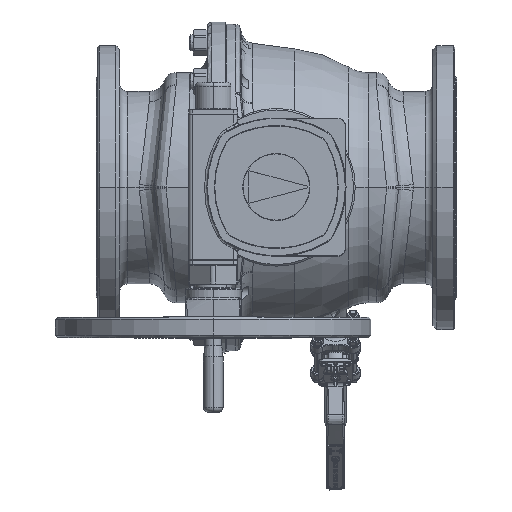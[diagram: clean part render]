
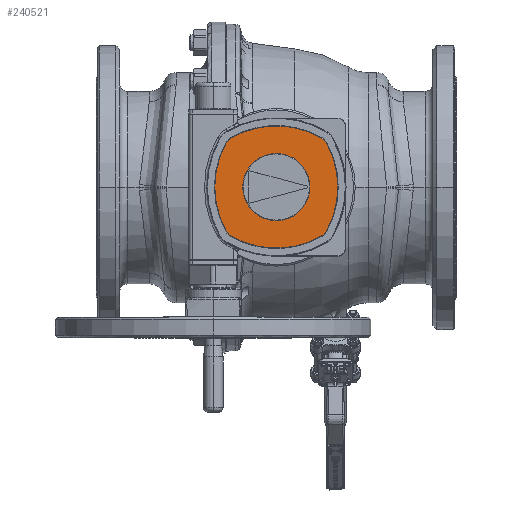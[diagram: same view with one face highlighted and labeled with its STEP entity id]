
A CAD part, top view. The second image highlights one B-rep face of the part: STEP entity #240521.
In plain terms, the highlighted planar face has unit normal (0, 0, 1).
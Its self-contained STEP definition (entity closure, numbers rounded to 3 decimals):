
#222836=CARTESIAN_POINT('',(0.,-37.5,190.));
#222837=DIRECTION('',(0.,0.,-1.));
#222838=DIRECTION('',(-0.502,0.865,0.));
#222839=AXIS2_PLACEMENT_3D('',#222836,#222837,#222838);
#222850=CARTESIAN_POINT('',(50.17,49.004,190.));
#222851=DIRECTION('',(0.,0.,1.));
#222852=DIRECTION('',(0.872,0.49,0.));
#222853=AXIS2_PLACEMENT_3D('',#222850,#222851,#222852);
#222864=CARTESIAN_POINT('',(-37.,0.,190.));
#222865=DIRECTION('',(0.,0.,-1.));
#222866=DIRECTION('',(0.872,0.49,0.));
#222867=AXIS2_PLACEMENT_3D('',#222864,#222865,#222866);
#222878=CARTESIAN_POINT('',(50.17,-49.004,190.));
#222879=DIRECTION('',(0.,0.,1.));
#222880=DIRECTION('',(0.502,-0.865,0.));
#222881=AXIS2_PLACEMENT_3D('',#222878,#222879,#222880);
#222892=CARTESIAN_POINT('',(0.,37.5,190.));
#222893=DIRECTION('',(0.,0.,-1.));
#222894=DIRECTION('',(0.502,-0.865,0.));
#222895=AXIS2_PLACEMENT_3D('',#222892,#222893,#222894);
#222906=CARTESIAN_POINT('',(-50.17,-49.004,190.));
#222907=DIRECTION('',(0.,0.,1.));
#222908=DIRECTION('',(-0.872,-0.49,0.));
#222909=AXIS2_PLACEMENT_3D('',#222906,#222907,#222908);
#222920=CARTESIAN_POINT('',(37.,0.,190.));
#222921=DIRECTION('',(0.,0.,-1.));
#222922=DIRECTION('',(-0.872,-0.49,0.));
#222923=AXIS2_PLACEMENT_3D('',#222920,#222921,#222922);
#222934=CARTESIAN_POINT('',(-50.17,49.004,190.));
#222935=DIRECTION('',(0.,0.,1.));
#222936=DIRECTION('',(-0.502,0.865,0.));
#222937=AXIS2_PLACEMENT_3D('',#222934,#222935,#222936);
#222939=CARTESIAN_POINT('',(0.,0.,190.));
#222940=DIRECTION('',(0.,0.,1.));
#222941=DIRECTION('',(-1.,0.,0.));
#222942=AXIS2_PLACEMENT_3D('',#222939,#222940,#222941);
#222944=CARTESIAN_POINT('',(0.,0.,190.));
#222945=DIRECTION('',(0.,0.,1.));
#222946=DIRECTION('',(1.,0.,0.));
#222947=AXIS2_PLACEMENT_3D('',#222944,#222945,#222946);
#227826=CARTESIAN_POINT('',(-42.5,0.,190.));
#227827=CARTESIAN_POINT('',(42.5,0.,190.));
#227828=VERTEX_POINT('',#227826);
#227829=VERTEX_POINT('',#227827);
#227830=CARTESIAN_POINT('',(57.695,-61.98,190.));
#227831=CARTESIAN_POINT('',(63.245,-56.355,190.));
#227832=VERTEX_POINT('',#227830);
#227833=VERTEX_POINT('',#227831);
#227834=CARTESIAN_POINT('',(63.245,56.355,190.));
#227835=VERTEX_POINT('',#227834);
#227836=CARTESIAN_POINT('',(57.695,61.98,190.));
#227837=VERTEX_POINT('',#227836);
#227838=CARTESIAN_POINT('',(-57.695,61.98,190.));
#227839=VERTEX_POINT('',#227838);
#227840=CARTESIAN_POINT('',(-63.245,56.355,190.));
#227841=VERTEX_POINT('',#227840);
#227842=CARTESIAN_POINT('',(-63.245,-56.355,190.));
#227843=VERTEX_POINT('',#227842);
#227844=CARTESIAN_POINT('',(-57.695,-61.98,190.));
#227845=VERTEX_POINT('',#227844);
#240500=CARTESIAN_POINT('',(0.,0.,190.));
#240501=DIRECTION('',(0.,0.,1.));
#240502=DIRECTION('',(1.,0.,0.));
#240503=AXIS2_PLACEMENT_3D('',#240500,#240501,#240502);
#240504=PLANE('',#240503);
#240505=ORIENTED_EDGE('',*,*,#240439,.F.);
#240506=ORIENTED_EDGE('',*,*,#240453,.T.);
#240507=ORIENTED_EDGE('',*,*,#240467,.F.);
#240508=ORIENTED_EDGE('',*,*,#240481,.T.);
#240509=ORIENTED_EDGE('',*,*,#240494,.F.);
#240510=ORIENTED_EDGE('',*,*,#240396,.T.);
#240511=ORIENTED_EDGE('',*,*,#240411,.F.);
#240512=ORIENTED_EDGE('',*,*,#240425,.T.);
#240513=EDGE_LOOP('',(#240505,#240506,#240507,#240508,#240509,#240510,#240511,
#240512));
#240514=FACE_OUTER_BOUND('',#240513,.F.);
#240516=ORIENTED_EDGE('',*,*,#240515,.T.);
#240518=ORIENTED_EDGE('',*,*,#240517,.T.);
#240519=EDGE_LOOP('',(#240516,#240518));
#240520=FACE_BOUND('',#240519,.F.);
#240521=ADVANCED_FACE('',(#240514,#240520),#240504,.T.);
#222840=CIRCLE('',#222839,115.);
#222854=CIRCLE('',#222853,15.);
#222868=CIRCLE('',#222867,115.);
#222882=CIRCLE('',#222881,15.);
#222896=CIRCLE('',#222895,115.);
#222910=CIRCLE('',#222909,15.);
#222924=CIRCLE('',#222923,115.);
#222938=CIRCLE('',#222937,15.);
#222943=CIRCLE('',#222942,42.5);
#222948=CIRCLE('',#222947,42.5);
#240396=EDGE_CURVE('',#227839,#227837,#222840,.T.);
#240411=EDGE_CURVE('',#227835,#227837,#222854,.T.);
#240425=EDGE_CURVE('',#227835,#227833,#222868,.T.);
#240439=EDGE_CURVE('',#227832,#227833,#222882,.T.);
#240453=EDGE_CURVE('',#227832,#227845,#222896,.T.);
#240467=EDGE_CURVE('',#227843,#227845,#222910,.T.);
#240481=EDGE_CURVE('',#227843,#227841,#222924,.T.);
#240494=EDGE_CURVE('',#227839,#227841,#222938,.T.);
#240515=EDGE_CURVE('',#227828,#227829,#222943,.T.);
#240517=EDGE_CURVE('',#227829,#227828,#222948,.T.);
